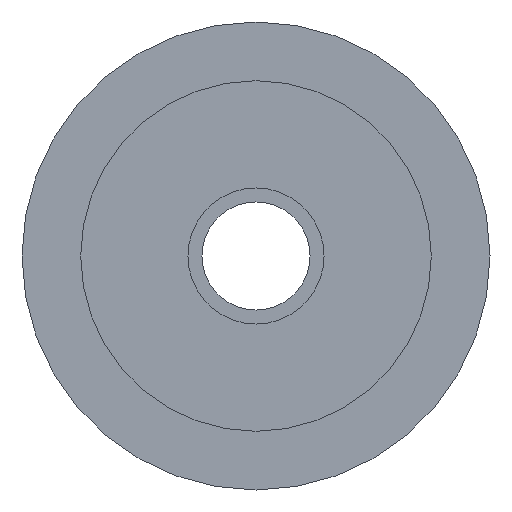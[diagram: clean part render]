
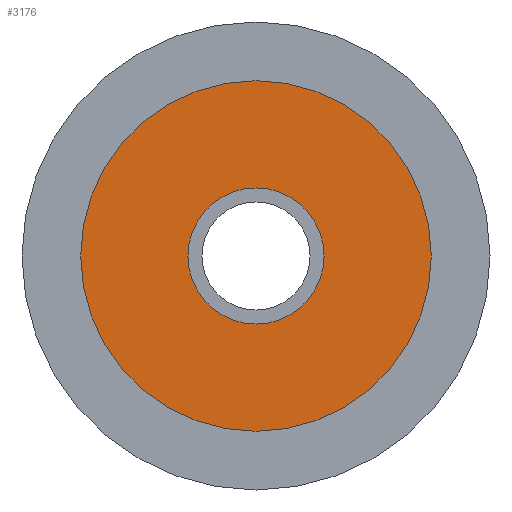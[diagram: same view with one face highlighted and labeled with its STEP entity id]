
A CAD part, left-side view. The second image highlights one B-rep face of the part: STEP entity #3176.
In plain terms, the highlighted planar face has unit normal (-1, 0, 0).
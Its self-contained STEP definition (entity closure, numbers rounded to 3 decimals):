
#132=CARTESIAN_POINT('',(2.5,20.6,0.0));
#133=VERTEX_POINT('',#132);
#149=CARTESIAN_POINT('',(2.5,-20.6,0.));
#150=VERTEX_POINT('',#149);
#157=CARTESIAN_POINT('',(2.5,0.0,0.0));
#158=DIRECTION('',(-1.0,0.0,0.0));
#159=DIRECTION('',(0.0,1.0,0.0));
#160=AXIS2_PLACEMENT_3D('',#157,#158,#159);
#161=CIRCLE('',#160,20.6);
#162=EDGE_CURVE('',#150,#133,#161,.F.);
#172=CARTESIAN_POINT('',(2.5,8.0,0.0));
#173=VERTEX_POINT('',#172);
#182=CARTESIAN_POINT('',(2.5,-8.0,0.));
#183=VERTEX_POINT('',#182);
#184=CARTESIAN_POINT('',(2.5,0.0,0.0));
#185=DIRECTION('',(1.0,0.0,0.0));
#186=DIRECTION('',(0.0,1.0,0.0));
#187=AXIS2_PLACEMENT_3D('',#184,#185,#186);
#188=CIRCLE('',#187,8.0);
#189=EDGE_CURVE('',#183,#173,#188,.T.);
#3147=CARTESIAN_POINT('',(2.5,0.0,0.0));
#3148=DIRECTION('',(1.0,0.0,0.0));
#3149=DIRECTION('',(0.0,1.0,0.0));
#3150=AXIS2_PLACEMENT_3D('',#3147,#3148,#3149);
#3151=CIRCLE('',#3150,8.0);
#3152=EDGE_CURVE('',#173,#183,#3151,.T.);
#3157=CARTESIAN_POINT('',(2.5,14.3,0.0));
#3158=DIRECTION('',(-1.0,0.0,0.0));
#3159=DIRECTION('',(0.0,0.0,1.0));
#3160=AXIS2_PLACEMENT_3D('',#3157,#3158,#3159);
#3161=PLANE('',#3160);
#3162=CARTESIAN_POINT('',(2.5,0.0,0.0));
#3163=DIRECTION('',(-1.0,0.0,0.0));
#3164=DIRECTION('',(0.0,1.0,0.0));
#3165=AXIS2_PLACEMENT_3D('',#3162,#3163,#3164);
#3166=CIRCLE('',#3165,20.6);
#3167=EDGE_CURVE('',#133,#150,#3166,.F.);
#3168=ORIENTED_EDGE('',*,*,#3167,.F.);
#3169=ORIENTED_EDGE('',*,*,#162,.F.);
#3170=EDGE_LOOP('',(#3168,#3169));
#3171=FACE_OUTER_BOUND('',#3170,.T.);
#3172=ORIENTED_EDGE('',*,*,#3152,.T.);
#3173=ORIENTED_EDGE('',*,*,#189,.T.);
#3174=EDGE_LOOP('',(#3172,#3173));
#3175=FACE_BOUND('',#3174,.T.);
#3176=ADVANCED_FACE('',(#3171,#3175),#3161,.T.);
